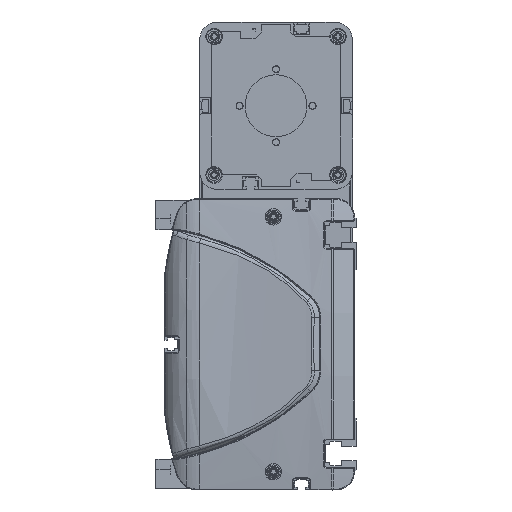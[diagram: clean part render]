
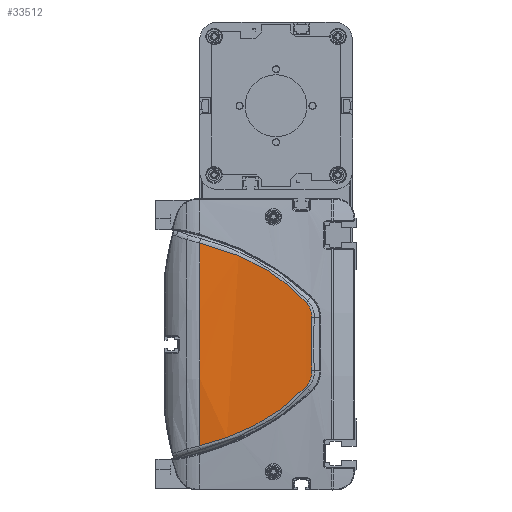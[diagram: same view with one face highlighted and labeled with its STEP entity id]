
A CAD part, left-side view. The second image highlights one B-rep face of the part: STEP entity #33512.
In plain terms, the highlighted cylindrical face has radius 600 mm (diameter 1200 mm), a partial arc.
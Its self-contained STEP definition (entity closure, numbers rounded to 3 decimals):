
#7734=CARTESIAN_POINT('',(-12.406,86.,55.736));
#7735=CARTESIAN_POINT('',(-12.529,80.495,54.41));
#7736=CARTESIAN_POINT('',(-12.828,69.636,51.114));
#7737=CARTESIAN_POINT('',(-13.389,54.079,44.179));
#7738=CARTESIAN_POINT('',(-14.01,39.709,34.979));
#7739=CARTESIAN_POINT('',(-14.395,31.353,27.243));
#7740=CARTESIAN_POINT('',(-14.555,27.451,23.113));
#7742=CARTESIAN_POINT('',(-14.555,27.451,23.113));
#7743=CARTESIAN_POINT('',(-14.641,25.336,20.875));
#7744=CARTESIAN_POINT('',(-14.745,24.202,17.745));
#7745=CARTESIAN_POINT('',(-14.821,24.351,14.67));
#7747=CARTESIAN_POINT('',(-14.821,24.351,14.67));
#7748=CARTESIAN_POINT('',(-14.9,24.51,11.413));
#7749=CARTESIAN_POINT('',(-15.007,24.721,4.895));
#7750=CARTESIAN_POINT('',(-15.007,24.721,
-4.895));
#7751=CARTESIAN_POINT('',(-14.9,24.51,
-11.413));
#7752=CARTESIAN_POINT('',(-14.821,24.351,
-14.67));
#7754=CARTESIAN_POINT('',(-14.821,24.351,
-14.67));
#7755=CARTESIAN_POINT('',(-14.745,24.202,
-17.745));
#7756=CARTESIAN_POINT('',(-14.641,25.337,
-20.876));
#7757=CARTESIAN_POINT('',(-14.555,27.451,
-23.113));
#7759=CARTESIAN_POINT('',(-14.555,27.451,
-23.113));
#7760=CARTESIAN_POINT('',(-14.395,31.353,
-27.243));
#7761=CARTESIAN_POINT('',(-14.01,39.709,
-34.979));
#7762=CARTESIAN_POINT('',(-13.389,54.079,
-44.179));
#7763=CARTESIAN_POINT('',(-12.828,69.636,
-51.114));
#7764=CARTESIAN_POINT('',(-12.529,80.495,
-54.41));
#7765=CARTESIAN_POINT('',(-12.406,86.,
-55.736));
#7767=CARTESIAN_POINT('',(585.,86.,0.));
#7768=DIRECTION('',(0.,1.,0.));
#7769=DIRECTION('',(-0.996,0.,-0.093));
#7770=AXIS2_PLACEMENT_3D('',#7767,#7768,#7769);
#7783=CARTESIAN_POINT('',(-12.406,86.,55.736));
#20230=VERTEX_POINT('',#7783);
#20231=CARTESIAN_POINT('',(-12.406,86.,
-55.736));
#20232=VERTEX_POINT('',#20231);
#20282=VERTEX_POINT('',#7740);
#20283=VERTEX_POINT('',#7745);
#20284=VERTEX_POINT('',#7752);
#20285=VERTEX_POINT('',#7757);
#33494=CARTESIAN_POINT('',(585.,87.45,0.));
#33495=DIRECTION('',(0.,-1.,0.));
#33496=DIRECTION('',(0.,0.,-1.));
#33497=AXIS2_PLACEMENT_3D('',#33494,#33495,#33496);
#33498=CYLINDRICAL_SURFACE('',#33497,600.);
#33500=ORIENTED_EDGE('',*,*,#33499,.T.);
#33502=ORIENTED_EDGE('',*,*,#33501,.T.);
#33503=ORIENTED_EDGE('',*,*,#33484,.T.);
#33505=ORIENTED_EDGE('',*,*,#33504,.T.);
#33507=ORIENTED_EDGE('',*,*,#33506,.T.);
#33509=ORIENTED_EDGE('',*,*,#33508,.T.);
#33510=EDGE_LOOP('',(#33500,#33502,#33503,#33505,#33507,#33509));
#33511=FACE_OUTER_BOUND('',#33510,.F.);
#33512=ADVANCED_FACE('',(#33511),#33498,.T.);
#7741=B_SPLINE_CURVE_WITH_KNOTS('',3,(#7734,#7735,#7736,#7737,#7738,#7739,
#7740),.UNSPECIFIED.,.F.,.F.,(4,1,1,1,4),(0.,0.25,0.5,0.75,1.),
.UNSPECIFIED.);
#7746=B_SPLINE_CURVE_WITH_KNOTS('',3,(#7742,#7743,#7744,#7745),.UNSPECIFIED.,
.F.,.F.,(4,4),(0.,1.),.UNSPECIFIED.);
#7753=B_SPLINE_CURVE_WITH_KNOTS('',3,(#7747,#7748,#7749,#7750,#7751,#7752),
.UNSPECIFIED.,.F.,.F.,(4,1,1,4),(0.,0.333,0.667,1.),
.UNSPECIFIED.);
#7758=B_SPLINE_CURVE_WITH_KNOTS('',3,(#7754,#7755,#7756,#7757),.UNSPECIFIED.,
.F.,.F.,(4,4),(0.,1.),.UNSPECIFIED.);
#7766=B_SPLINE_CURVE_WITH_KNOTS('',3,(#7759,#7760,#7761,#7762,#7763,#7764,
#7765),.UNSPECIFIED.,.F.,.F.,(4,1,1,1,4),(0.,0.25,0.5,0.75,1.),
.UNSPECIFIED.);
#7771=CIRCLE('',#7770,600.);
#33484=EDGE_CURVE('',#20283,#20284,#7753,.T.);
#33499=EDGE_CURVE('',#20230,#20282,#7741,.T.);
#33501=EDGE_CURVE('',#20282,#20283,#7746,.T.);
#33504=EDGE_CURVE('',#20284,#20285,#7758,.T.);
#33506=EDGE_CURVE('',#20285,#20232,#7766,.T.);
#33508=EDGE_CURVE('',#20232,#20230,#7771,.T.);
